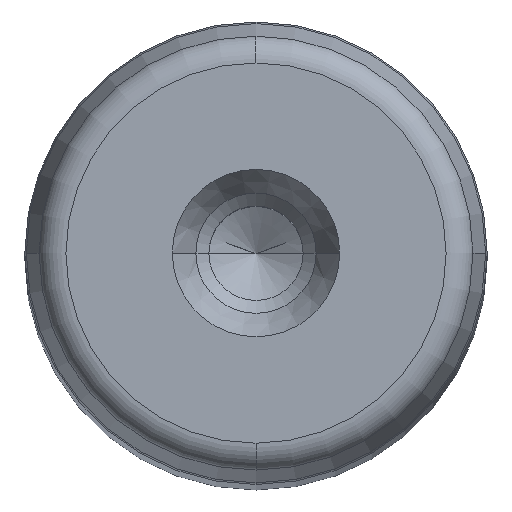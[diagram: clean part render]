
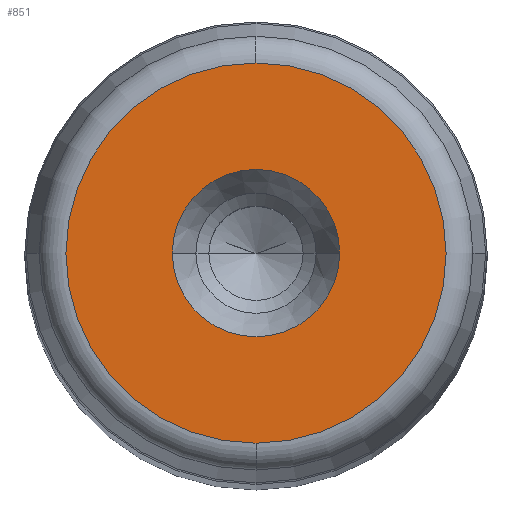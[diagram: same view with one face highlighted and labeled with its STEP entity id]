
A CAD part, top view. The second image highlights one B-rep face of the part: STEP entity #851.
In plain terms, the highlighted planar face has unit normal (0, 0, 1) as drawn and (0, 1, 0) by its records, which use the part's own axes.
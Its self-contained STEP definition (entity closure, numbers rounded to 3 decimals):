
#281=CARTESIAN_POINT('',(9.05,355.0,0.0));
#282=VERTEX_POINT('',#281);
#289=CARTESIAN_POINT('',(-9.05,355.0,0.));
#290=VERTEX_POINT('',#289);
#291=CARTESIAN_POINT('',(0.0,355.0,0.0));
#292=DIRECTION('',(0.0,1.0,0.0));
#293=DIRECTION('',(1.0,0.0,0.0));
#294=AXIS2_PLACEMENT_3D('',#291,#292,#293);
#295=CIRCLE('',#294,9.05);
#296=EDGE_CURVE('',#282,#290,#295,.T.);
#313=CARTESIAN_POINT('',(0.0,355.,20.554));
#314=VERTEX_POINT('',#313);
#324=CARTESIAN_POINT('',(0.,355.,-20.554));
#325=VERTEX_POINT('',#324);
#326=CARTESIAN_POINT('',(0.0,355.,0.0));
#327=DIRECTION('',(0.0,1.0,0.0));
#328=DIRECTION('',(1.0,0.0,0.0));
#329=AXIS2_PLACEMENT_3D('',#326,#327,#328);
#330=CIRCLE('',#329,20.554);
#331=EDGE_CURVE('',#325,#314,#330,.T.);
#812=CARTESIAN_POINT('',(20.554,355.,0.0));
#813=VERTEX_POINT('',#812);
#814=CARTESIAN_POINT('',(0.0,355.,0.0));
#815=DIRECTION('',(0.0,1.0,0.0));
#816=DIRECTION('',(1.0,0.0,0.0));
#817=AXIS2_PLACEMENT_3D('',#814,#815,#816);
#818=CIRCLE('',#817,20.554);
#819=EDGE_CURVE('',#813,#325,#818,.T.);
#821=CARTESIAN_POINT('',(0.0,355.,0.0));
#822=DIRECTION('',(0.0,1.0,0.0));
#823=DIRECTION('',(1.0,0.0,0.0));
#824=AXIS2_PLACEMENT_3D('',#821,#822,#823);
#825=CIRCLE('',#824,20.554);
#826=EDGE_CURVE('',#314,#813,#825,.T.);
#831=CARTESIAN_POINT('',(-22.61,355.0,-22.61));
#832=DIRECTION('',(0.0,1.0,0.0));
#833=DIRECTION('',(0.0,0.0,1.0));
#834=AXIS2_PLACEMENT_3D('',#831,#832,#833);
#835=PLANE('',#834);
#836=ORIENTED_EDGE('',*,*,#819,.T.);
#837=ORIENTED_EDGE('',*,*,#331,.T.);
#838=ORIENTED_EDGE('',*,*,#826,.T.);
#839=EDGE_LOOP('',(#836,#837,#838));
#840=FACE_OUTER_BOUND('',#839,.T.);
#841=ORIENTED_EDGE('',*,*,#296,.F.);
#842=CARTESIAN_POINT('',(0.0,355.0,0.0));
#843=DIRECTION('',(0.0,1.0,0.0));
#844=DIRECTION('',(1.0,0.0,0.0));
#845=AXIS2_PLACEMENT_3D('',#842,#843,#844);
#846=CIRCLE('',#845,9.05);
#847=EDGE_CURVE('',#290,#282,#846,.T.);
#848=ORIENTED_EDGE('',*,*,#847,.F.);
#849=EDGE_LOOP('',(#841,#848));
#850=FACE_BOUND('',#849,.T.);
#851=ADVANCED_FACE('',(#840,#850),#835,.T.);
